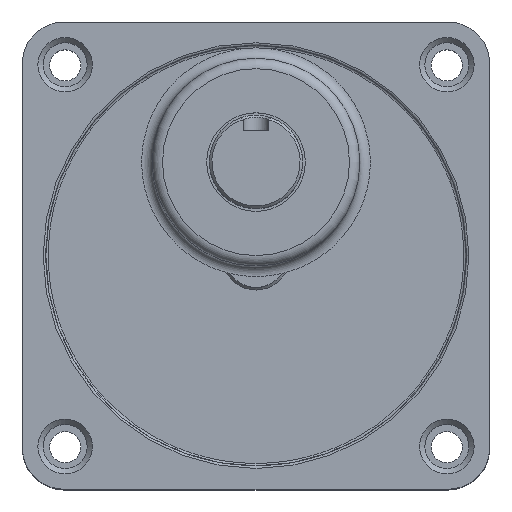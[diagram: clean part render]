
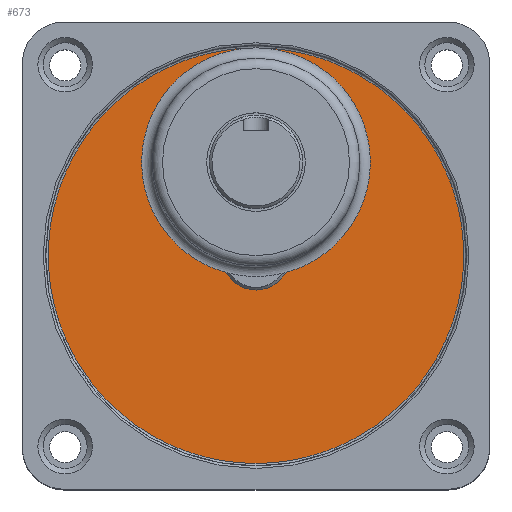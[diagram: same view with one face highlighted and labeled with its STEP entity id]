
A CAD part, top view. The second image highlights one B-rep face of the part: STEP entity #673.
In plain terms, the highlighted planar face has unit normal (0, 0, -1).
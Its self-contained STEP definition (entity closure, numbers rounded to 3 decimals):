
#622=CARTESIAN_POINT('',(-6.5,0.,3.5));
#623=VERTEX_POINT('',#622);
#624=CARTESIAN_POINT('',(0.0,0.0,3.5));
#625=DIRECTION('',(0.0,0.0,-1.0));
#626=DIRECTION('',(1.0,0.0,0.0));
#627=AXIS2_PLACEMENT_3D('',#624,#625,#626);
#628=CIRCLE('',#627,6.5);
#629=EDGE_CURVE('',#623,#623,#628,.T.);
#654=CARTESIAN_POINT('',(0.0,0.0,3.5));
#655=DIRECTION('',(0.0,0.0,1.0));
#656=DIRECTION('',(1.0,0.0,0.0));
#657=AXIS2_PLACEMENT_3D('',#654,#655,#656);
#658=PLANE('',#657);
#659=CARTESIAN_POINT('',(-41.5,0.,3.5));
#660=VERTEX_POINT('',#659);
#661=CARTESIAN_POINT('',(0.0,0.0,3.5));
#662=DIRECTION('',(0.0,0.0,-1.0));
#663=DIRECTION('',(1.0,0.0,0.0));
#664=AXIS2_PLACEMENT_3D('',#661,#662,#663);
#665=CIRCLE('',#664,41.5);
#666=EDGE_CURVE('',#660,#660,#665,.T.);
#667=ORIENTED_EDGE('',*,*,#666,.T.);
#668=EDGE_LOOP('',(#667));
#669=FACE_OUTER_BOUND('',#668,.T.);
#670=ORIENTED_EDGE('',*,*,#629,.F.);
#671=EDGE_LOOP('',(#670));
#672=FACE_BOUND('',#671,.T.);
#673=ADVANCED_FACE('',(#669,#672),#658,.F.);
